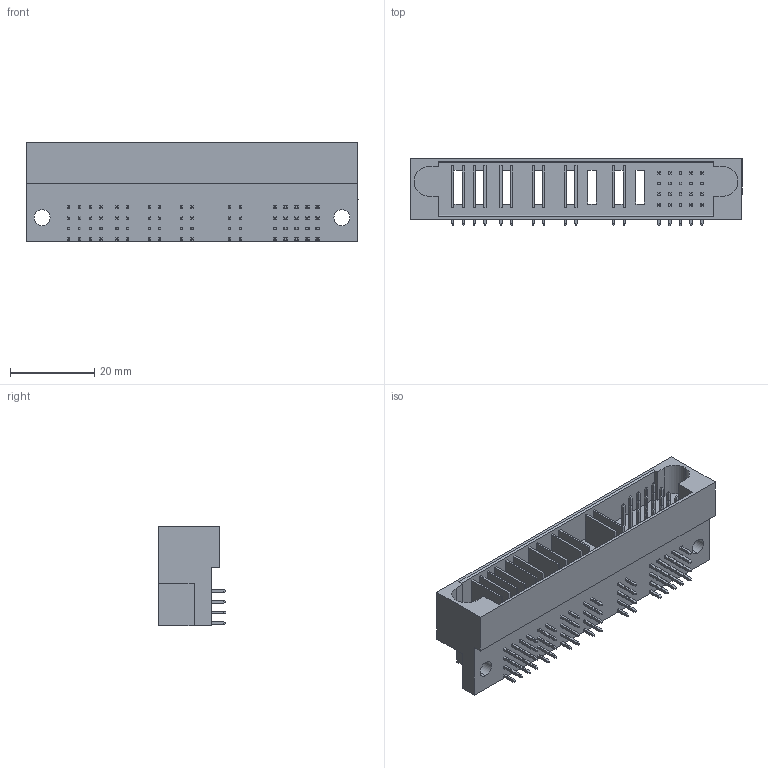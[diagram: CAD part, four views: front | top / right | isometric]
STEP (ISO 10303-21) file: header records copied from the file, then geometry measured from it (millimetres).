
FILE_DESCRIPTION (( 'STEP AP214' ), '1' );
FILE_NAME ('9391-A1H08S20CB30DA-A031.STEP', '2020-07-28T02:36:11', ( '' ), ( '' ), 'SwSTEP 2.0', 'SolidWorks 2011', '' );
FILE_SCHEMA (( 'AUTOMOTIVE_DESIGN' ));
Length unit declared in the file: millimetre
Products named in the file (1): 9391-A1H08S20CB30DA-A031
Bounding box: 78.74 x 16 x 23.62 mm (x, y, z)
Volume: 15002.5 mm3; surface area: 13074.6 mm2
Topology: 1 solids, 2 shells, 1089 faces, 2573 edges, 1598 vertices
Faces by surface type: plane 1016, cylinder 73
Entity records: 42348 total; most frequent: CARTESIAN_POINT 5261, ORIENTED_EDGE 5146, DIRECTION 4899, EDGE_CURVE 2573, LINE 2427, VECTOR 2427, VERTEX_POINT 1598, AXIS2_PLACEMENT_3D 1236
